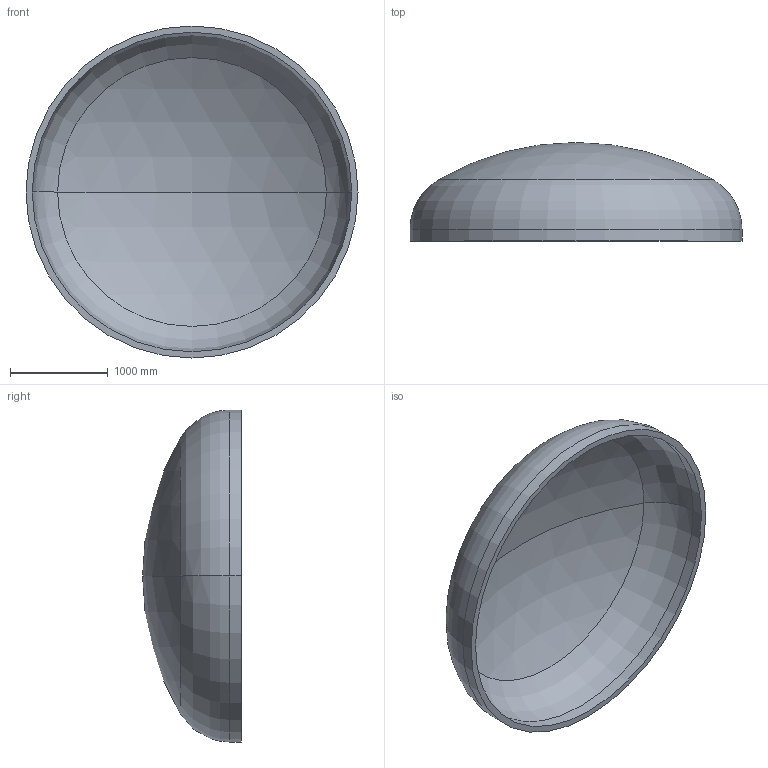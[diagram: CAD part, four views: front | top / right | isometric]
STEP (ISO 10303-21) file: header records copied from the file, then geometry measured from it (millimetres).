
FILE_DESCRIPTION (( 'STEP AP203' ), '1' );
FILE_NAME ('DIN 28013 Korbbogenform_-_Boden DIN 28013 - 3400 x 120 - I - s=64.step', '2016-07-01T19:40:34', ( '' ), ( '' ), 'SwSTEP 2.0', 'SolidWorks 2013', '' );
FILE_SCHEMA (( 'CONFIG_CONTROL_DESIGN' ));
Length unit declared in the file: millimetre
Products named in the file (1): DIN 28013 Korbbogenform_-_Boden DIN 28013 - 3400 x 120 - I - s=64
Bounding box: 3400 x 1010.93 x 3400 mm (x, y, z)
Volume: 865963583 mm3; surface area: 27740673.8 mm2
Topology: 1 solids, 1 shells, 13 faces, 24 edges, 14 vertices
Faces by surface type: torus 4, cylinder 4, sphere 4, plane 1
Entity records: 407 total; most frequent: DIRECTION 72, CARTESIAN_POINT 52, ORIENTED_EDGE 48, AXIS2_PLACEMENT_3D 34, EDGE_CURVE 24, CIRCLE 20, EDGE_LOOP 14, VERTEX_POINT 14
